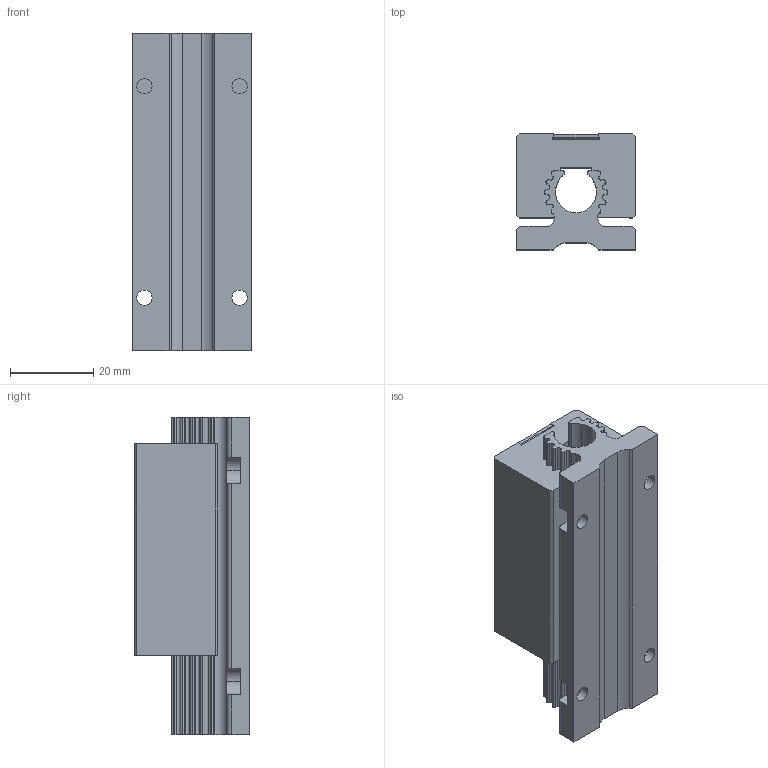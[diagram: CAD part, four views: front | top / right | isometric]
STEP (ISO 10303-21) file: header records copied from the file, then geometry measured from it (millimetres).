
FILE_DESCRIPTION (( 'STEP AP214' ), '1' );
FILE_NAME ('AMETEK-RGS06KN-A00-0000-01.00-001.STEP', '2022-03-04T09:16:20', ( '' ), ( '' ), 'SwSTEP 2.0', 'SolidWorks 2021', '' );
FILE_SCHEMA (( 'AUTOMOTIVE_DESIGN' ));
Length unit declared in the file: inch
Products named in the file (4): RG6 Passive Rail; AMETEK-RGS06KN-A00-0000-01.00-001; cover; bushingextrusion
Assembly tree (3 placements, depth 2):
  AMETEK-RGS06KN-A00-0000-01.00-001
    bushingextrusion
    cover
    RG6 Passive Rail
Bounding box: 28.58 x 27.79 x 76.2 mm (x, y, z)
Volume: 38208.3 mm3; surface area: 19600.9 mm2
Topology: 3 solids, 3 shells, 294 faces, 832 edges, 548 vertices
Faces by surface type: plane 185, cylinder 101, cone 8
Entity records: 13362 total; most frequent: CARTESIAN_POINT 1684, ORIENTED_EDGE 1648, DIRECTION 1618, EDGE_CURVE 824, LINE 622, VECTOR 622, VERTEX_POINT 548, AXIS2_PLACEMENT_3D 498
